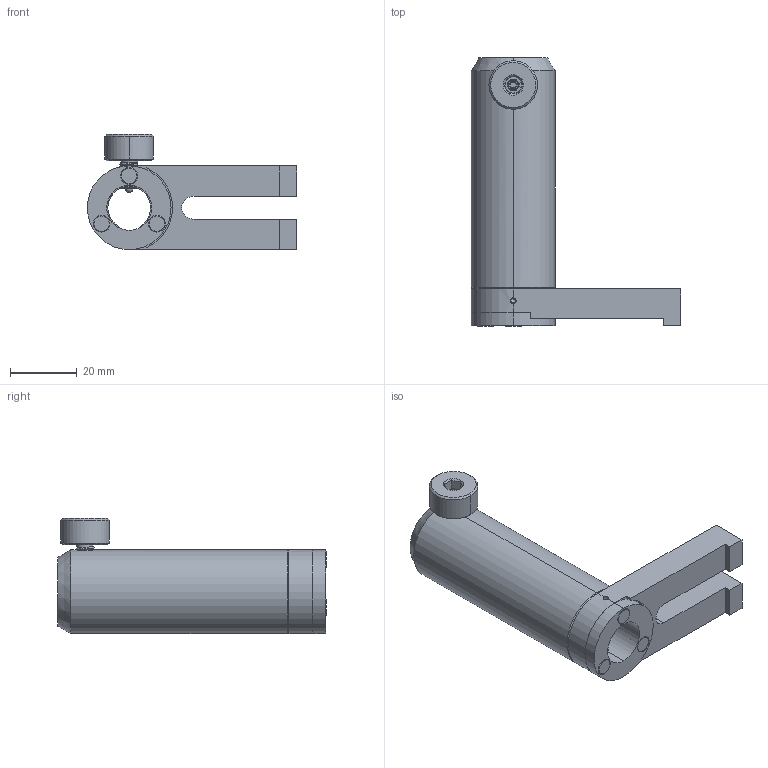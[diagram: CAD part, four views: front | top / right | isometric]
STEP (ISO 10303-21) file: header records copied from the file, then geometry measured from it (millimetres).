
FILE_DESCRIPTION((''),'2;1');
FILE_NAME('CA80-XC_ASM','2020-12-21T',('Administrator'),(''),'CREO PARAMETRIC BY PTC INC, 2015290','CREO PARAMETRIC BY PTC INC, 2015290','');
FILE_SCHEMA(('CONFIG_CONTROL_DESIGN'));
Length unit declared in the file: millimetre
Products named in the file (9): CAXX-XC_A2; CAXX-XC_A3; MAGNET_5X3; CA80-XC_A1; M6_SCREW_1; SPRING_3X6; M4X3_HS_2; M6_SCREW_2; CA80-XC_ASM
Assembly tree (10 placements, depth 2):
  CA80-XC_ASM
    CAXX-XC_A2
    CAXX-XC_A3
    MAGNET_5X3  x3
    CA80-XC_A1
    M6_SCREW_1
    SPRING_3X6
    M4X3_HS_2
    M6_SCREW_2
Bounding box: 62.5 x 80.13 x 34.39 mm (x, y, z)
Volume: 36203.8 mm3; surface area: 17866 mm2
Topology: 10 solids, 10 shells, 277 faces, 687 edges, 438 vertices
Faces by surface type: cylinder 122, plane 78, bspline 35, cone 28, torus 12, sphere 2
Entity records: 25570 total; most frequent: CARTESIAN_POINT 19484, ORIENTED_EDGE 1306, DIRECTION 1081, EDGE_CURVE 653, VERTEX_POINT 422, AXIS2_PLACEMENT_3D 397, EDGE_LOOP 289, VECTOR 287
